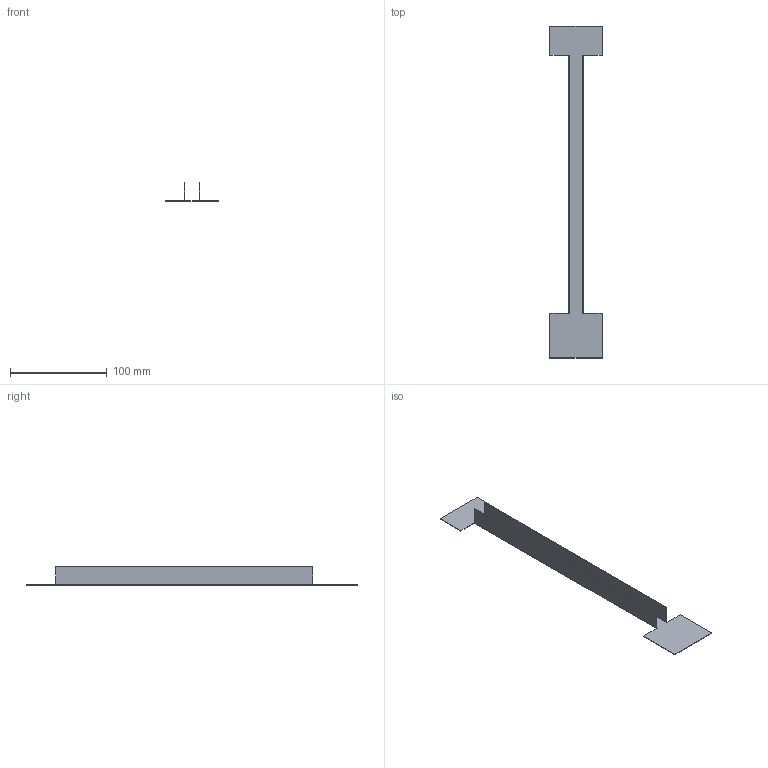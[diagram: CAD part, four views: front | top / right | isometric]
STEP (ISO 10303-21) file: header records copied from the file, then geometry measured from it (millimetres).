
FILE_DESCRIPTION(/* description */ (''),/* implementation_level */ '2;1');
FILE_NAME(/* name */ 'M18P12.stp',/* time_stamp */ '2024-05-02T16:59:03-04:00',/* author */ ('olivier.st-arneault'),/* organization */ (''),/* preprocessor_version */ 'ST-DEVELOPER v20',/* originating_system */ 'Autodesk Inventor 2024',/* authorisation */ '');
FILE_SCHEMA (('AUTOMOTIVE_DESIGN { 1 0 10303 214 3 1 1 }'));
Length unit declared in the file: inch
Products named in the file (1): M18P12
Bounding box: 53.98 x 342.9 x 19.05 mm (x, y, z)
Volume: 9155.7 mm3; surface area: 36530.1 mm2
Topology: 1 solids, 1 shells, 38 faces, 92 edges, 56 vertices
Faces by surface type: plane 34, cylinder 4
Entity records: 1121 total; most frequent: CARTESIAN_POINT 187, ORIENTED_EDGE 184, DIRECTION 178, EDGE_CURVE 92, LINE 84, VECTOR 84, VERTEX_POINT 56, AXIS2_PLACEMENT_3D 47
